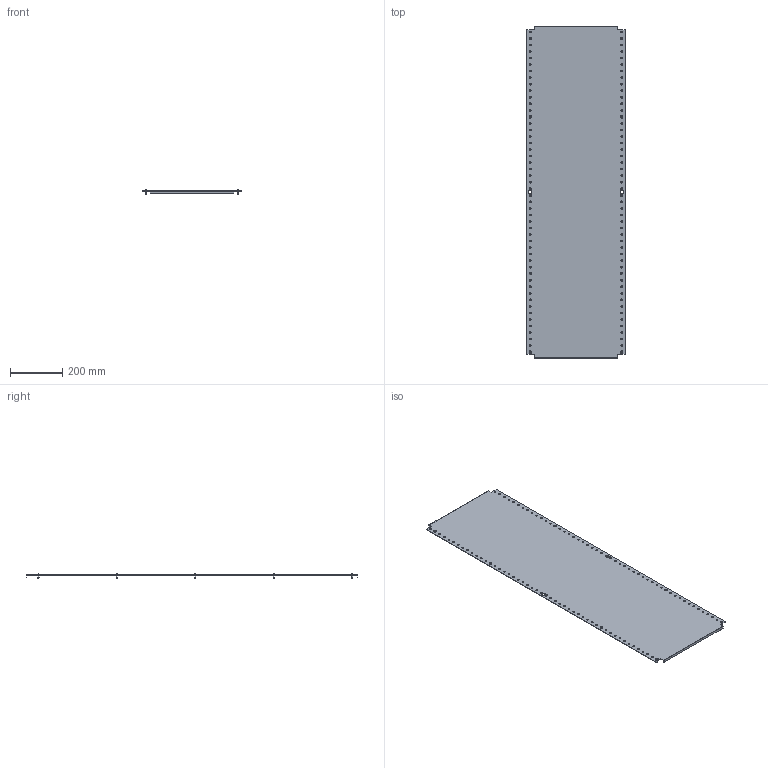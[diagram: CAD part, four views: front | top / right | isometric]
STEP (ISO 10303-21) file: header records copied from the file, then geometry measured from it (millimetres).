
FILE_DESCRIPTION (( 'STEP AP203' ), '1' );
FILE_NAME ('R6MP1445.STEP', '2025-03-28T12:07:24', ( '' ), ( '' ), 'SwSTEP 2.0', 'SolidWorks 2022', '' );
FILE_SCHEMA (( 'CONFIG_CONTROL_DESIGN' ));
Length unit declared in the file: millimetre
Products named in the file (3): RB.3293.00.00.0_-11; R6MP1445; M5x12 DIN 7500 C Torx Zinc_stright
Assembly tree (11 placements, depth 2):
  R6MP1445
    RB.3293.00.00.0_-11
    M5x12 DIN 7500 C Torx Zinc_stright  x10
Bounding box: 375 x 1270 x 15.56 mm (x, y, z)
Volume: 861584.1 mm3; surface area: 966661.6 mm2
Topology: 11 solids, 11 shells, 294 faces, 696 edges, 434 vertices
Faces by surface type: cylinder 124, plane 110, torus 20, cone 20, sphere 10, bspline 10
Full cylindrical faces by diameter (mm): 5 x10, 6.5 x100, 9.5 x10
Entity records: 5605 total; most frequent: CARTESIAN_POINT 962, DIRECTION 856, ORIENTED_EDGE 632, EDGE_LOOP 462, AXIS2_PLACEMENT_3D 384, EDGE_CURVE 316, VERTEX_POINT 278, FACE_OUTER_BOUND 256
